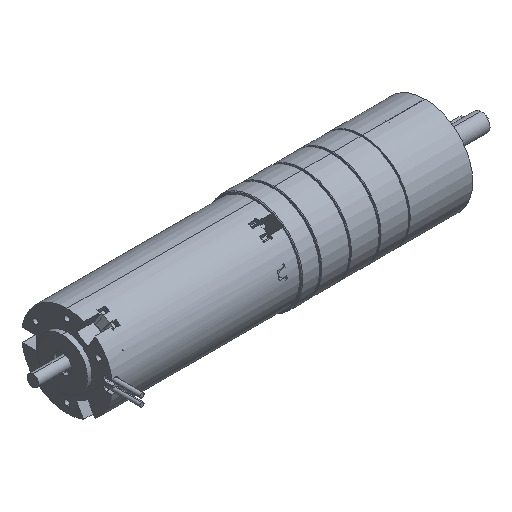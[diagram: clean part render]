
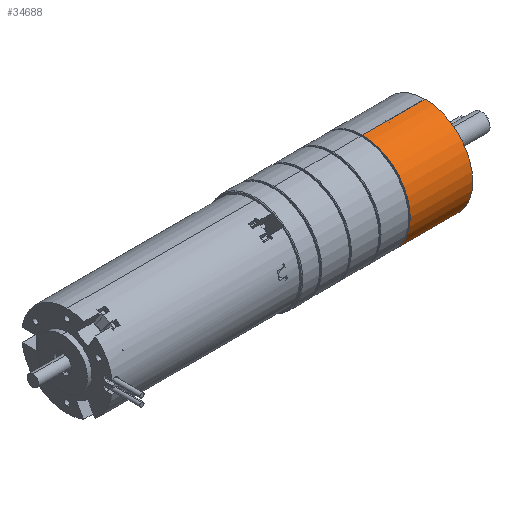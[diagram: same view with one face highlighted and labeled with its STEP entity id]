
A CAD part, isometric view. The second image highlights one B-rep face of the part: STEP entity #34688.
In plain terms, the highlighted cylindrical face has radius 21 mm (diameter 42 mm), a partial arc.
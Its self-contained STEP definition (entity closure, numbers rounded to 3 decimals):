
#385 = CARTESIAN_POINT ( 'NONE',  ( 25.5, 0., 21. ) ) ;
#1429 = VERTEX_POINT ( 'NONE', #30894 ) ;
#2633 = CARTESIAN_POINT ( 'NONE',  ( 25.5, 0., -21. ) ) ;
#3055 = DIRECTION ( 'NONE',  ( 1., 0., 0. ) ) ;
#4210 = FACE_OUTER_BOUND ( 'NONE', #34055, .T. ) ;
#6245 = CARTESIAN_POINT ( 'NONE',  ( -2., 0., -21. ) ) ;
#6420 = DIRECTION ( 'NONE',  ( 1., 0., 0. ) ) ;
#6780 = VERTEX_POINT ( 'NONE', #2633 ) ;
#7459 = DIRECTION ( 'NONE',  ( 1., 0., 0. ) ) ;
#7814 = CIRCLE ( 'NONE', #14124, 21. ) ;
#9557 = DIRECTION ( 'NONE',  ( -1., 0., 0. ) ) ;
#11937 = ORIENTED_EDGE ( 'NONE', *, *, #39555, .F. ) ;
#12479 = AXIS2_PLACEMENT_3D ( 'NONE', #31165, #9557, #34775 ) ;
#14124 = AXIS2_PLACEMENT_3D ( 'NONE', #24632, #3055, #28232 ) ;
#15333 = ORIENTED_EDGE ( 'NONE', *, *, #29862, .T. ) ;
#17262 = DIRECTION ( 'NONE',  ( 0., 0., -1. ) ) ;
#18049 = EDGE_CURVE ( 'NONE', #33033, #6780, #41606, .T. ) ;
#18417 = EDGE_CURVE ( 'NONE', #1429, #33033, #7814, .T. ) ;
#19221 = CIRCLE ( 'NONE', #12479, 21. ) ;
#19974 = ORIENTED_EDGE ( 'NONE', *, *, #18049, .T. ) ;
#22242 = CYLINDRICAL_SURFACE ( 'NONE', #33655, 21. ) ;
#22481 = VECTOR ( 'NONE', #7459, 1000. ) ;
#24632 = CARTESIAN_POINT ( 'NONE',  ( -2., 0., 0. ) ) ;
#27724 = VECTOR ( 'NONE', #31997, 1000. ) ;
#28232 = DIRECTION ( 'NONE',  ( 0., 0., -1. ) ) ;
#29862 = EDGE_CURVE ( 'NONE', #6780, #36882, #19221, .T. ) ;
#30894 = CARTESIAN_POINT ( 'NONE',  ( -2., 0., 21. ) ) ;
#31165 = CARTESIAN_POINT ( 'NONE',  ( 25.5, 0., 0. ) ) ;
#31997 = DIRECTION ( 'NONE',  ( 1., 0., 0. ) ) ;
#33033 = VERTEX_POINT ( 'NONE', #6245 ) ;
#33655 = AXIS2_PLACEMENT_3D ( 'NONE', #38843, #6420, #17262 ) ;
#34055 = EDGE_LOOP ( 'NONE', ( #11937, #44720, #19974, #15333 ) ) ;
#34688 = ADVANCED_FACE ( 'NONE', ( #4210 ), #22242, .T. ) ;
#34775 = DIRECTION ( 'NONE',  ( 0., 0., -1. ) ) ;
#36882 = VERTEX_POINT ( 'NONE', #385 ) ;
#37302 = LINE ( 'NONE', #46260, #27724 ) ;
#38843 = CARTESIAN_POINT ( 'NONE',  ( -3.475, 0., 0. ) ) ;
#39555 = EDGE_CURVE ( 'NONE', #1429, #36882, #37302, .T. ) ;
#39764 = CARTESIAN_POINT ( 'NONE',  ( -3.475, 0., -21. ) ) ;
#41606 = LINE ( 'NONE', #39764, #22481 ) ;
#44720 = ORIENTED_EDGE ( 'NONE', *, *, #18417, .T. ) ;
#46260 = CARTESIAN_POINT ( 'NONE',  ( -3.475, 0., 21. ) ) ;
